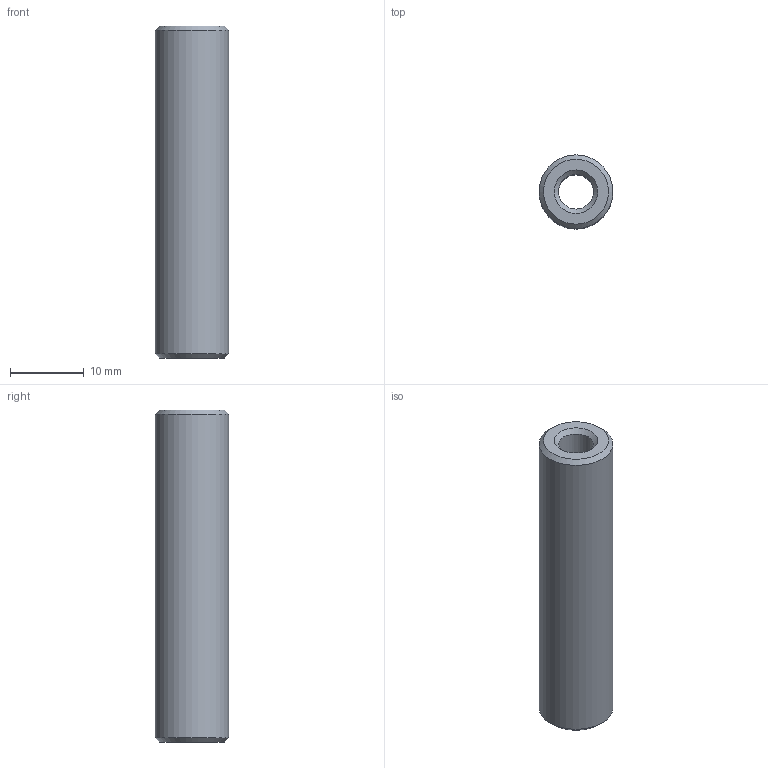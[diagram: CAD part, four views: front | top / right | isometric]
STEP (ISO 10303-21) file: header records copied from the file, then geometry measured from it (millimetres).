
FILE_DESCRIPTION(/* description */ ('STEP AP242 Edition 2','CAx-IF Rec.Pracs.---Representation and Presentation of Product Manufacturing Information (PMI)---4.0---2014-10-13','CAx-IF Rec.Pracs.---3D Tessellated Geometry---0.4---2014-09-14','2;1','CAx-IF Rec.Pracs.---User Defined Attributes---1.5---2016-08-15'),/* implementation_level */ '2;1');
FILE_NAME(/* name */ 'Chassis No Suspension - post_5',/* time_stamp */ '2026-10-25T14:46:20Z',/* author */ (''),/* organization */ (''),/* preprocessor_version */ 'ST-DEVELOPER v20',/* originating_system */ 'ONSHAPE BY PTC INC, 1.222',/* authorisation */ ' ');
FILE_SCHEMA (('AP242_MANAGED_MODEL_BASED_3D_ENGINEERING_MIM_LF { 1 0 10303 442 3 1 4 }'));
Length unit declared in the file: metre
Products named in the file (1): post_5
Bounding box: 10 x 10 x 45 mm (x, y, z)
Volume: 2736.9 mm3; surface area: 2168.1 mm2
Topology: 1 solids, 1 shells, 8 faces, 14 edges, 8 vertices
Faces by surface type: cone 4, cylinder 2, plane 2
Full cylindrical faces by diameter (mm): 4.7 x1, 10 x1
Entity records: 220 total; most frequent: DIRECTION 40, CARTESIAN_POINT 31, ORIENTED_EDGE 28, AXIS2_PLACEMENT_3D 17, EDGE_CURVE 14, EDGE_LOOP 10, FACE_BOUND 10, VERTEX_POINT 8
